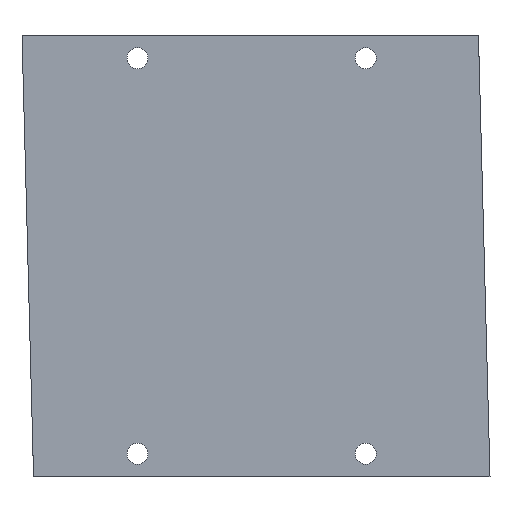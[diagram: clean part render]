
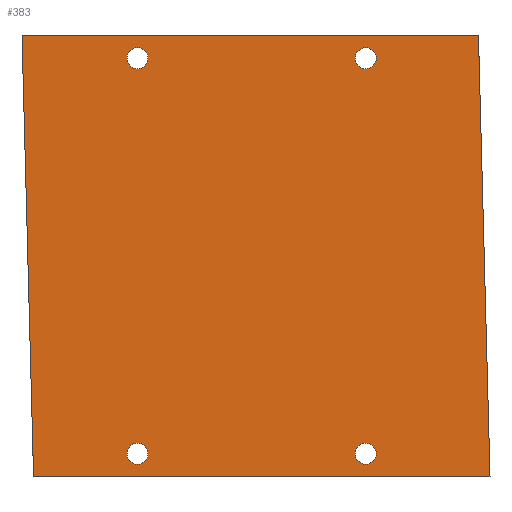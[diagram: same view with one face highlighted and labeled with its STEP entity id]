
A CAD part, front view. The second image highlights one B-rep face of the part: STEP entity #383.
In plain terms, the highlighted planar face has unit normal (0, -1, 0).
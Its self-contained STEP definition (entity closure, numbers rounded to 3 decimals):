
#155 = VERTEX_POINT ( 'NONE', #1294 ) ;
#163 = VERTEX_POINT ( 'NONE', #1347 ) ;
#170 = EDGE_CURVE ( 'NONE', #155, #163, #1421, .T. ) ;
#229 = VERTEX_POINT ( 'NONE', #1528 ) ;
#232 = VERTEX_POINT ( 'NONE', #1580 ) ;
#235 = EDGE_CURVE ( 'NONE', #232, #163, #1531, .T. ) ;
#244 = EDGE_CURVE ( 'NONE', #229, #232, #1559, .T. ) ;
#271 = ORIENTED_EDGE ( 'NONE', *, *, #307, .T. ) ;
#274 = ORIENTED_EDGE ( 'NONE', *, *, #244, .F. ) ;
#275 = ORIENTED_EDGE ( 'NONE', *, *, #170, .T. ) ;
#280 = ORIENTED_EDGE ( 'NONE', *, *, #502, .T. ) ;
#286 = EDGE_CURVE ( 'NONE', #229, #155, #1629, .T. ) ;
#292 = VERTEX_POINT ( 'NONE', #1353 ) ;
#304 = EDGE_LOOP ( 'NONE', ( #379, #330 ) ) ;
#307 = EDGE_CURVE ( 'NONE', #527, #526, #1409, .T. ) ;
#308 = EDGE_CURVE ( 'NONE', #550, #537, #1675, .T. ) ;
#310 = ORIENTED_EDGE ( 'NONE', *, *, #286, .T. ) ;
#319 = ORIENTED_EDGE ( 'NONE', *, *, #308, .T. ) ;
#324 = EDGE_LOOP ( 'NONE', ( #319, #380 ) ) ;
#325 = ORIENTED_EDGE ( 'NONE', *, *, #381, .T. ) ;
#328 = ORIENTED_EDGE ( 'NONE', *, *, #495, .T. ) ;
#329 = EDGE_CURVE ( 'NONE', #2562, #781, #1711, .T. ) ;
#330 = ORIENTED_EDGE ( 'NONE', *, *, #587, .T. ) ;
#331 = ORIENTED_EDGE ( 'NONE', *, *, #235, .F. ) ;
#332 = EDGE_LOOP ( 'NONE', ( #275, #331, #274, #310 ) ) ;
#333 = EDGE_LOOP ( 'NONE', ( #271, #280 ) ) ;
#339 = EDGE_LOOP ( 'NONE', ( #325, #328 ) ) ;
#379 = ORIENTED_EDGE ( 'NONE', *, *, #329, .T. ) ;
#380 = ORIENTED_EDGE ( 'NONE', *, *, #544, .T. ) ;
#381 = EDGE_CURVE ( 'NONE', #292, #483, #1761, .T. ) ;
#383 = ADVANCED_FACE ( 'NONE', ( #1752, #1712, #1750, #1744, #1757 ), #1767, .F. ) ;
#483 = VERTEX_POINT ( 'NONE', #2008 ) ;
#495 = EDGE_CURVE ( 'NONE', #483, #292, #2031, .T. ) ;
#502 = EDGE_CURVE ( 'NONE', #526, #527, #2068, .T. ) ;
#526 = VERTEX_POINT ( 'NONE', #2151 ) ;
#527 = VERTEX_POINT ( 'NONE', #2150 ) ;
#537 = VERTEX_POINT ( 'NONE', #2186 ) ;
#544 = EDGE_CURVE ( 'NONE', #537, #550, #2232, .T. ) ;
#550 = VERTEX_POINT ( 'NONE', #2220 ) ;
#587 = EDGE_CURVE ( 'NONE', #781, #2562, #2278, .T. ) ;
#781 = VERTEX_POINT ( 'NONE', #2458 ) ;
#1294 = CARTESIAN_POINT ( 'NONE',  ( 467.962, 0., -117. ) ) ;
#1347 = CARTESIAN_POINT ( 'NONE',  ( 464.925, 0., -1. ) ) ;
#1353 = CARTESIAN_POINT ( 'NONE',  ( 375.295, 0., -4.25 ) ) ;
#1357 = DIRECTION ( 'NONE',  ( 0., 0., 1. ) ) ;
#1358 = DIRECTION ( 'NONE',  ( 0., 1., 0. ) ) ;
#1383 = DIRECTION ( 'NONE',  ( 1., 0., 0. ) ) ;
#1395 = AXIS2_PLACEMENT_3D ( 'NONE', #1408, #1358, #1357 ) ;
#1408 = CARTESIAN_POINT ( 'NONE',  ( 435.295, 0., -7. ) ) ;
#1409 = CIRCLE ( 'NONE', #1395, 2.75 ) ;
#1420 = CARTESIAN_POINT ( 'NONE',  ( 466.312, 0., -53.984 ) ) ;
#1421 = LINE ( 'NONE', #1420, #1460 ) ;
#1459 = DIRECTION ( 'NONE',  ( -0.026, 0., 1. ) ) ;
#1460 = VECTOR ( 'NONE', #1459, 1000. ) ;
#1528 = CARTESIAN_POINT ( 'NONE',  ( 347.962, 0., -117. ) ) ;
#1531 = LINE ( 'NONE', #1576, #1582 ) ;
#1559 = LINE ( 'NONE', #1614, #1608 ) ;
#1575 = DIRECTION ( 'NONE',  ( 1., 0., 0. ) ) ;
#1576 = CARTESIAN_POINT ( 'NONE',  ( 274.774, 0., -1. ) ) ;
#1580 = CARTESIAN_POINT ( 'NONE',  ( 344.925, 0., -1. ) ) ;
#1582 = VECTOR ( 'NONE', #1575, 1000. ) ;
#1607 = DIRECTION ( 'NONE',  ( -0.026, 0., 1. ) ) ;
#1608 = VECTOR ( 'NONE', #1607, 1000. ) ;
#1614 = CARTESIAN_POINT ( 'NONE',  ( 346.394, 0., -57.125 ) ) ;
#1628 = CARTESIAN_POINT ( 'NONE',  ( 274.774, 0., -117. ) ) ;
#1629 = LINE ( 'NONE', #1628, #1630 ) ;
#1630 = VECTOR ( 'NONE', #1383, 1000. ) ;
#1661 = AXIS2_PLACEMENT_3D ( 'NONE', #1705, #1704, #1703 ) ;
#1672 = DIRECTION ( 'NONE',  ( 0., 0., 1. ) ) ;
#1673 = DIRECTION ( 'NONE',  ( 0., 1., 0. ) ) ;
#1674 = AXIS2_PLACEMENT_3D ( 'NONE', #1682, #1673, #1672 ) ;
#1675 = CIRCLE ( 'NONE', #1674, 2.75 ) ;
#1682 = CARTESIAN_POINT ( 'NONE',  ( 435.295, 0., -111. ) ) ;
#1703 = DIRECTION ( 'NONE',  ( 0., 0., 1. ) ) ;
#1704 = DIRECTION ( 'NONE',  ( 0., 1., 0. ) ) ;
#1705 = CARTESIAN_POINT ( 'NONE',  ( 375.295, 0., -111. ) ) ;
#1711 = CIRCLE ( 'NONE', #1661, 2.75 ) ;
#1712 = FACE_BOUND ( 'NONE', #324, .T. ) ;
#1715 = AXIS2_PLACEMENT_3D ( 'NONE', #1747, #1746, #1745 ) ;
#1744 = FACE_BOUND ( 'NONE', #304, .T. ) ;
#1745 = DIRECTION ( 'NONE',  ( 0., 0., 1. ) ) ;
#1746 = DIRECTION ( 'NONE',  ( 0., 1., 0. ) ) ;
#1747 = CARTESIAN_POINT ( 'NONE',  ( 375.295, 0., -7. ) ) ;
#1750 = FACE_BOUND ( 'NONE', #339, .T. ) ;
#1751 = AXIS2_PLACEMENT_3D ( 'NONE', #1758, #1803, #1802 ) ;
#1752 = FACE_BOUND ( 'NONE', #333, .T. ) ;
#1757 = FACE_OUTER_BOUND ( 'NONE', #332, .T. ) ;
#1758 = CARTESIAN_POINT ( 'NONE',  ( 274.774, 0., -59. ) ) ;
#1761 = CIRCLE ( 'NONE', #1715, 2.75 ) ;
#1767 = PLANE ( 'NONE',  #1751 ) ;
#1802 = DIRECTION ( 'NONE',  ( 0., 0., 1. ) ) ;
#1803 = DIRECTION ( 'NONE',  ( 0., 1., 0. ) ) ;
#2008 = CARTESIAN_POINT ( 'NONE',  ( 375.295, 0., -9.75 ) ) ;
#2025 = AXIS2_PLACEMENT_3D ( 'NONE', #2106, #2105, #2104 ) ;
#2031 = CIRCLE ( 'NONE', #2048, 2.75 ) ;
#2034 = CARTESIAN_POINT ( 'NONE',  ( 375.295, 0., -7. ) ) ;
#2048 = AXIS2_PLACEMENT_3D ( 'NONE', #2034, #2075, #2074 ) ;
#2068 = CIRCLE ( 'NONE', #2025, 2.75 ) ;
#2074 = DIRECTION ( 'NONE',  ( 0., 0., 1. ) ) ;
#2075 = DIRECTION ( 'NONE',  ( 0., 1., 0. ) ) ;
#2104 = DIRECTION ( 'NONE',  ( 0., 0., 1. ) ) ;
#2105 = DIRECTION ( 'NONE',  ( 0., 1., 0. ) ) ;
#2106 = CARTESIAN_POINT ( 'NONE',  ( 435.295, 0., -7. ) ) ;
#2150 = CARTESIAN_POINT ( 'NONE',  ( 435.295, 0., -4.25 ) ) ;
#2151 = CARTESIAN_POINT ( 'NONE',  ( 435.295, 0., -9.75 ) ) ;
#2176 = CARTESIAN_POINT ( 'NONE',  ( 435.295, 0., -111. ) ) ;
#2186 = CARTESIAN_POINT ( 'NONE',  ( 435.295, 0., -113.75 ) ) ;
#2220 = CARTESIAN_POINT ( 'NONE',  ( 435.295, 0., -108.25 ) ) ;
#2228 = DIRECTION ( 'NONE',  ( 0., 0., 1. ) ) ;
#2229 = DIRECTION ( 'NONE',  ( 0., 1., 0. ) ) ;
#2232 = CIRCLE ( 'NONE', #2235, 2.75 ) ;
#2235 = AXIS2_PLACEMENT_3D ( 'NONE', #2176, #2229, #2228 ) ;
#2244 = CARTESIAN_POINT ( 'NONE',  ( 375.295, 0., -111. ) ) ;
#2245 = AXIS2_PLACEMENT_3D ( 'NONE', #2244, #2271, #2270 ) ;
#2270 = DIRECTION ( 'NONE',  ( 0., 0., 1. ) ) ;
#2271 = DIRECTION ( 'NONE',  ( 0., 1., 0. ) ) ;
#2278 = CIRCLE ( 'NONE', #2245, 2.75 ) ;
#2458 = CARTESIAN_POINT ( 'NONE',  ( 375.295, 0., -113.75 ) ) ;
#2523 = CARTESIAN_POINT ( 'NONE',  ( 375.295, 0., -108.25 ) ) ;
#2562 = VERTEX_POINT ( 'NONE', #2523 ) ;
